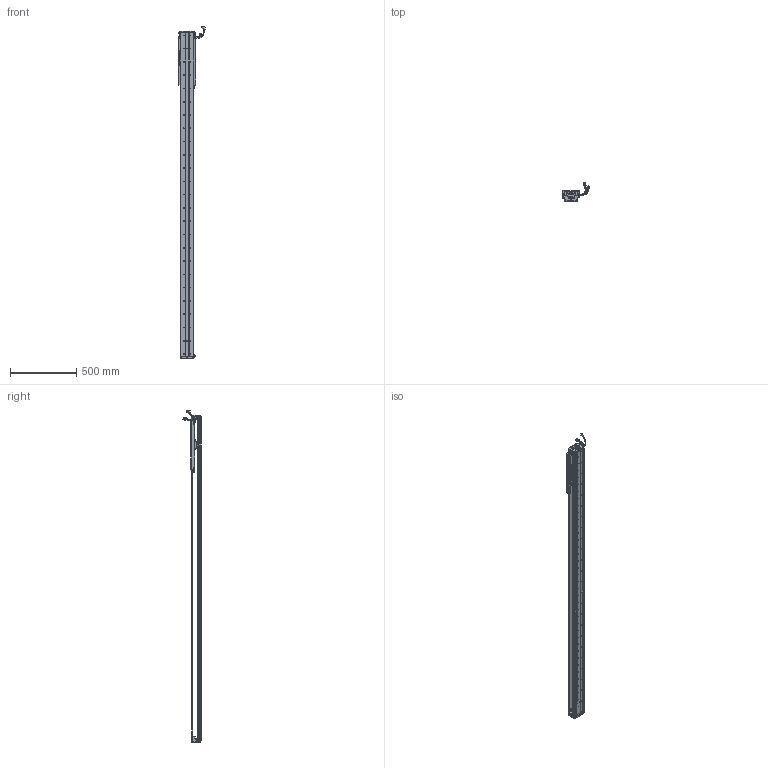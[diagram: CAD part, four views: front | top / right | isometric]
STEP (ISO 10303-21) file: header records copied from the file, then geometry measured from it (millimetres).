
FILE_DESCRIPTION (( 'STEP AP203' ), '1' );
FILE_NAME ('Z5-RY100D-1-L500-B-K.SLDASM_2000.step', '2021-05-17T03:34:22', ( '盈信电脑' ), ( '东莞市道滘镇水果街19号' ), 'SwSTEP 2.0', 'SolidWorks 2016', '' );
FILE_SCHEMA (( 'CONFIG_CONTROL_DESIGN' ));
Length unit declared in the file: millimetre
Products named in the file (36): 100-Z-臏賑輸盄裔(21遴); PSLH080_PSLF2; SCREW-M1.6-3; LABEL; SCALE-Part-2; Z-RY100D詩湍狟揤裔; HARNESS-Part-2; Z5-RY100D-500-倰第菁釱_2000; Z5-RY100D-1-L500-B-K.SLDASM_2000; SCREW-M1.7-1; 140雄赽晤鎢ん堤盄; Z-RY100D詩湍奻揤裔; SEAL; Z-RY100D覜茼んえ; Z5-RY100-L500詩湍90mm遵_2000; SCREW-M1.6-1; SCREW-M1.6-2; 080黍杅芛假蚾釱21遴; SCALE; PBU_SHEET; SCALE-Part-1; COVER-Part-1; 覜茼ん672; Z5-RY100铝滑块（21款）; LABEL-Part-1; 榋妏寠巭燃_暯_M2_2; 140蚥薯蝶輸; HOLDER0; Z-100詩湍傷裔啣; HARNESS; SHIELDPLATE; SCREW-M1.6; SEAL-Part-1; COVER; SCREW-M1.7; HARNESS-Part-1
Assembly tree (43 placements, depth 4):
  Z5-RY100D-1-L500-B-K.SLDASM_2000
    Z5-RY100D-500-倰第菁釱_2000
    Z5-RY100铝滑块（21款）
    PSLH080_PSLF2
      SCALE
        SCALE-Part-1
        SCALE-Part-2
      HARNESS
        HARNESS-Part-1
        HARNESS-Part-2
      LABEL
        LABEL-Part-1
      COVER
        COVER-Part-1
      SEAL
        SEAL-Part-1
      榋妏寠巭燃_暯_M2_2
      SHIELDPLATE
      SCREW-M1.7
      SCREW-M1.7-1
      PBU_SHEET
      SCREW-M1.6
      SCREW-M1.6-1
      SCREW-M1.6-2
      SCREW-M1.6-3
      HOLDER0
    080黍杅芛假蚾釱21遴
    Z-100詩湍傷裔啣  x2
    140蚥薯蝶輸  x2
    覜茼ん672  x3
    Z-RY100D覜茼んえ  x3
    100-Z-臏賑輸盄裔(21遴)
    140雄赽晤鎢ん堤盄
    Z5-RY100-L500詩湍90mm遵_2000
    Z-RY100D詩湍狟揤裔  x2
    Z-RY100D詩湍奻揤裔  x2
Bounding box: 205.84 x 136.11 x 2500.43 mm (x, y, z)
Volume: 4828672.9 mm3; surface area: 1863777.4 mm2
Topology: 38 solids, 38 shells, 2979 faces, 8095 edges, 5164 vertices
Faces by surface type: cylinder 1450, plane 1181, cone 226, torus 69, bspline 53
Entity records: 85765 total; most frequent: CARTESIAN_POINT 17955, DIRECTION 13821, ORIENTED_EDGE 13070, EDGE_CURVE 6535, AXIS2_PLACEMENT_3D 5190, VERTEX_POINT 4232, LINE 3441, VECTOR 3441
